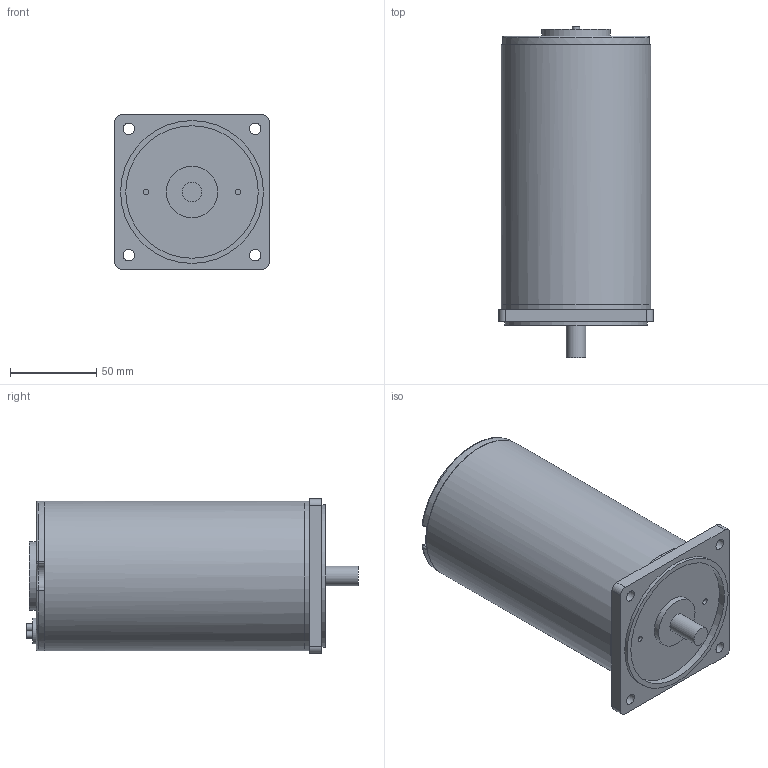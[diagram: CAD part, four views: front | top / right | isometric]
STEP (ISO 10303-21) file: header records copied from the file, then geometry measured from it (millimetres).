
FILE_DESCRIPTION((''),'2;1');
FILE_NAME('E:\2공장-도면\3D\표준형 3D(민규)\step file\DC모터\K9DP200N1.stp','2014-11-24T17:23:43',('AHN'),(''),'Autodesk Inventor 2012','Autodesk Inventor 2012','');
FILE_SCHEMA(('CONFIG_CONTROL_DESIGN'));
Length unit declared in the file: millimetre
Products named in the file (1): K9DP200N1
Bounding box: 90 x 193 x 90 mm (x, y, z)
Volume: 1001916.6 mm3; surface area: 65909.5 mm2
Topology: 1 solids, 1 shells, 64 faces, 134 edges, 82 vertices
Faces by surface type: cylinder 31, plane 25, torus 4, sphere 4
Full cylindrical faces by diameter (mm): 3.4 x2, 4.2 x2, 6.5 x4, 11.3 x1, 15 x1, 30 x1, 40 x1, 77 x1, 83 x1, 87 x2, 87.1 x1
Entity records: 1652 total; most frequent: DIRECTION 318, CARTESIAN_POINT 259, ORIENTED_EDGE 230, AXIS2_PLACEMENT_3D 138, EDGE_CURVE 115, EDGE_LOOP 99, VERTEX_POINT 79, CIRCLE 73
